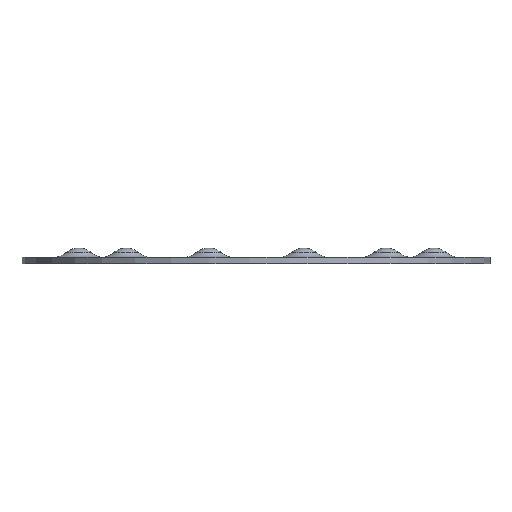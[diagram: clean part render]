
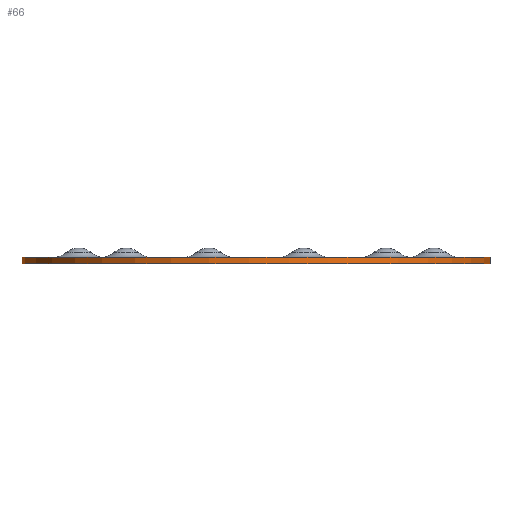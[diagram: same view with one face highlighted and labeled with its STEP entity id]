
A CAD part, front view. The second image highlights one B-rep face of the part: STEP entity #66.
In plain terms, the highlighted cylindrical face has radius 53.5 mm (diameter 107 mm), a partial arc.
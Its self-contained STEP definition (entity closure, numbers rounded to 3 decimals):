
#66=ADVANCED_FACE('',(#166),#167,.T.);
#166=FACE_OUTER_BOUND('',#408,.T.);
#167=CYLINDRICAL_SURFACE('',#409,53.5);
#408=EDGE_LOOP('',(#996,#997,#998,#999));
#409=AXIS2_PLACEMENT_3D('',#1000,#1001,#1002);
#996=ORIENTED_EDGE('',*,*,#1235,.F.);
#997=ORIENTED_EDGE('',*,*,#1236,.F.);
#998=ORIENTED_EDGE('',*,*,#1204,.T.);
#999=ORIENTED_EDGE('',*,*,#1215,.T.);
#1000=CARTESIAN_POINT('',(0.0,0.0,-1.5));
#1001=DIRECTION('',(0.0,0.0,1.0));
#1002=DIRECTION('',(1.0,0.0,-0.0));
#1204=EDGE_CURVE('',#1310,#1307,#1311,.T.);
#1215=EDGE_CURVE('',#1307,#1329,#1332,.T.);
#1235=EDGE_CURVE('',#1361,#1329,#1362,.T.);
#1236=EDGE_CURVE('',#1310,#1361,#1363,.T.);
#1307=VERTEX_POINT('',#1877);
#1310=VERTEX_POINT('',#1881);
#1311=CIRCLE('',#1882,53.5);
#1329=VERTEX_POINT('',#1967);
#1332=LINE('',#1971,#1972);
#1361=VERTEX_POINT('',#2017);
#1362=CIRCLE('',#2018,53.5);
#1363=LINE('',#2019,#2020);
#1877=CARTESIAN_POINT('',(53.385,-3.5,-1.5));
#1881=CARTESIAN_POINT('',(53.385,3.5,-1.5));
#1882=AXIS2_PLACEMENT_3D('',#2424,#2425,#2426);
#1967=CARTESIAN_POINT('',(53.385,-3.5,0.0));
#1971=CARTESIAN_POINT('',(53.385,-3.5,-1.5));
#1972=VECTOR('',#2447,1.0);
#2017=CARTESIAN_POINT('',(53.385,3.5,0.0));
#2018=AXIS2_PLACEMENT_3D('',#2473,#2474,#2475);
#2019=CARTESIAN_POINT('',(53.385,3.5,-1.5));
#2020=VECTOR('',#2476,1.0);
#2424=CARTESIAN_POINT('',(0.0,0.0,-1.5));
#2425=DIRECTION('',(0.0,-0.0,1.0));
#2426=DIRECTION('',(0.998,0.065,0.0));
#2447=DIRECTION('',(0.0,0.0,1.0));
#2473=CARTESIAN_POINT('',(0.0,0.0,0.0));
#2474=DIRECTION('',(0.0,-0.0,1.0));
#2475=DIRECTION('',(0.998,0.065,0.0));
#2476=DIRECTION('',(0.0,0.0,1.0));
